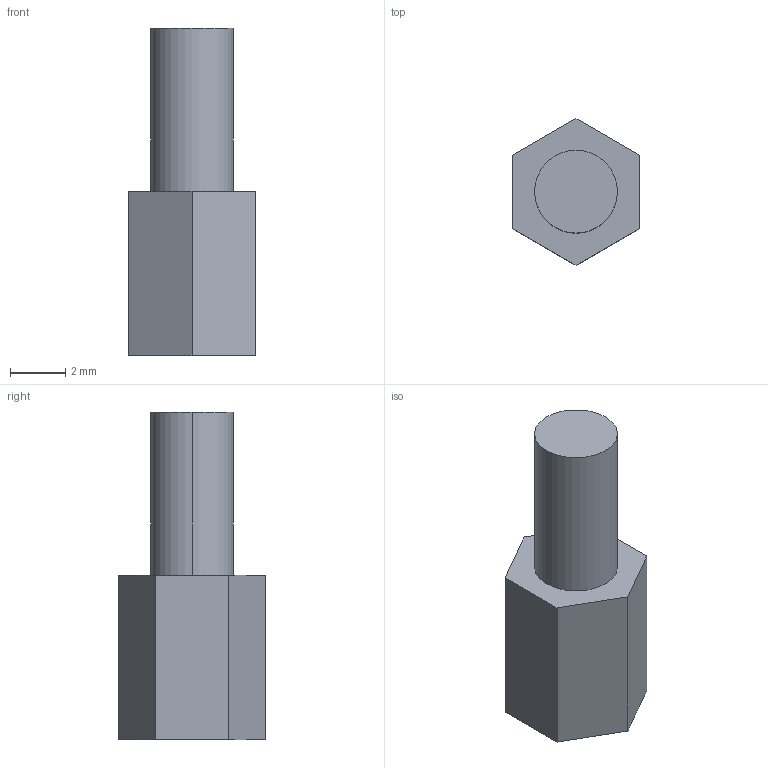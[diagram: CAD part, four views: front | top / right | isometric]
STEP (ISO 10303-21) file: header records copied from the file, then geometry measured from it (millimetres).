
FILE_DESCRIPTION (( 'STEP AP214' ), '1' );
FILE_NAME ('geeek pi stud.STEP', '2022-01-16T09:08:09', ( '' ), ( '' ), 'SwSTEP 2.0', 'SolidWorks 2021', '' );
FILE_SCHEMA (( 'AUTOMOTIVE_DESIGN' ));
Length unit declared in the file: millimetre
Products named in the file (1): geeek pi stud
Bounding box: 4.6 x 5.31 x 11.85 mm (x, y, z)
Volume: 127.4 mm3; surface area: 223.2 mm2
Topology: 1 solids, 1 shells, 15 faces, 34 edges, 21 vertices
Faces by surface type: plane 9, cylinder 4, cone 2
Entity records: 462 total; most frequent: DIRECTION 72, CARTESIAN_POINT 69, ORIENTED_EDGE 64, EDGE_CURVE 32, AXIS2_PLACEMENT_3D 24, LINE 24, VECTOR 24, VERTEX_POINT 21
